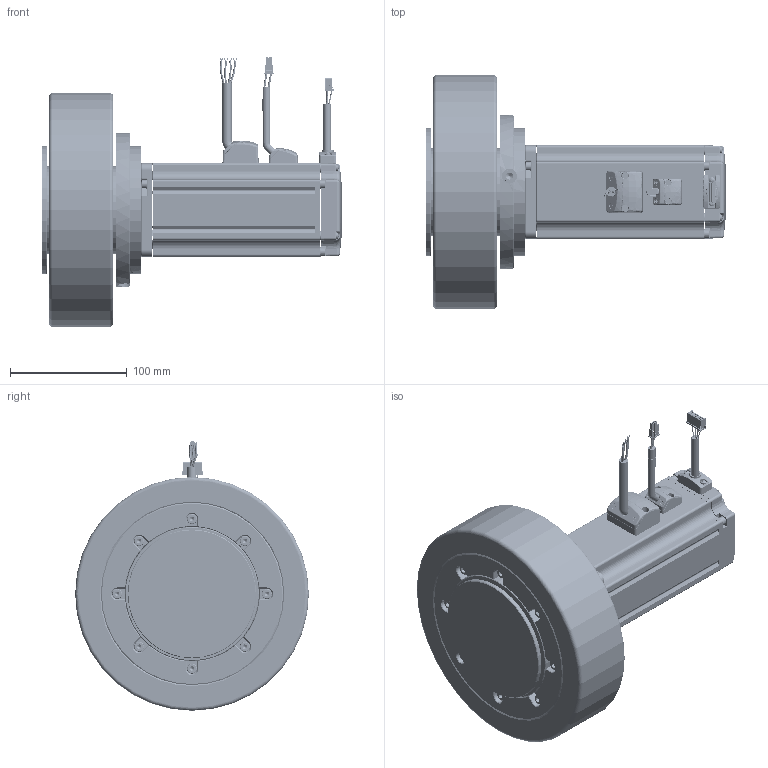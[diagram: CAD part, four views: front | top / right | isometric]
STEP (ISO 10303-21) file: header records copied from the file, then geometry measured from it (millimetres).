
FILE_DESCRIPTION((''),'2;1');
FILE_NAME('AEQ-115N-032-10-19-1-H55-W200_ASM','2025-02-25T09:13:57',('ms15079'),(''),'CREO PARAMETRIC BY PTC INC, 2018100','CREO PARAMETRIC BY PTC INC, 2018100','');
FILE_SCHEMA(('CONFIG_CONTROL_DESIGN'));
Products named in the file (10): HEX_SOCKET_SET_SCREWS_WITH_FLAT; SINGLE_COIL_LOCK_WASHERS_LIGHT_; HEXAGON_SOCKET_HEAD_CAP_SC-4695; AEQ-115-H55-W200; HEXAGON_SOCKET_HEAD_CAP_SC-1787; 090-19_X2_8F7495017D275957_X0_J; AEQ-115N-L2-19-1_X2_FF08_X0_19-; AEQ-115N-032-10-19-1-H55-W200_1_ASM; PRT0001; AEQ-115N-032-10-19-1-H55-W200_ASM
Assembly tree (24 placements, depth 3):
  AEQ-115N-032-10-19-1-H55-W200_ASM
    AEQ-115N-032-10-19-1-H55-W200_1_ASM
      HEX_SOCKET_SET_SCREWS_WITH_FLAT  x2
      SINGLE_COIL_LOCK_WASHERS_LIGHT_  x8
      HEXAGON_SOCKET_HEAD_CAP_SC-4695  x8
      AEQ-115-H55-W200
      HEXAGON_SOCKET_HEAD_CAP_SC-1787
      090-19_X2_8F7495017D275957_X0_J
      AEQ-115N-L2-19-1_X2_FF08_X0_19-
    PRT0001
Bounding box: 256.87 x 200 x 230.63 mm (x, y, z)
Volume: 1985600.4 mm3; surface area: 310253.6 mm2
Topology: 22 solids, 80 shells, 3988 faces, 9640 edges, 5650 vertices
Faces by surface type: cone 1605, cylinder 1153, plane 915, bspline 141, torus 117, sphere 43, extrusion 14
Entity records: 78397 total; most frequent: CARTESIAN_POINT 28864, DIRECTION 10134, ORIENTED_EDGE 9689, EDGE_CURVE 5473, AXIS2_PLACEMENT_3D 3543, VERTEX_POINT 3528, VECTOR 3048, LINE 3034
